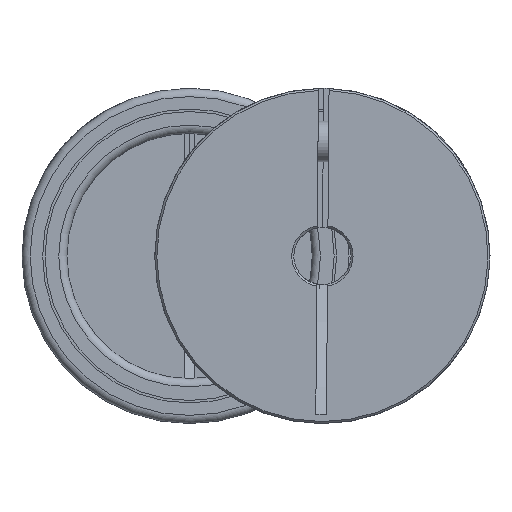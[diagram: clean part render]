
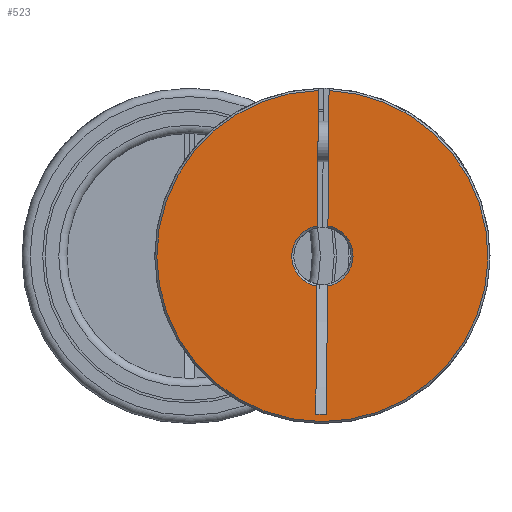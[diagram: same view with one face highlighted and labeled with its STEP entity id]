
A CAD part, left-side view. The second image highlights one B-rep face of the part: STEP entity #523.
In plain terms, the highlighted planar face has unit normal (-1, 0, 0).
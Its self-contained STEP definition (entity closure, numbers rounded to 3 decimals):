
#523 = ADVANCED_FACE( 'NONE', ( #794 ), #795, .F. );
#794 = FACE_OUTER_BOUND( '', #975, .T. );
#795 = PLANE( '', #976 );
#975 = EDGE_LOOP( '', ( #1234, #1235, #1236, #1237, #1238, #1239, #1240, #1241 ) );
#976 = AXIS2_PLACEMENT_3D( '', #1242, #1243, #1244 );
#1234 = ORIENTED_EDGE( '', *, *, #1616, .T. );
#1235 = ORIENTED_EDGE( '', *, *, #1618, .T. );
#1236 = ORIENTED_EDGE( '', *, *, #1619, .T. );
#1237 = ORIENTED_EDGE( '', *, *, #1624, .T. );
#1238 = ORIENTED_EDGE( '', *, *, #1625, .F. );
#1239 = ORIENTED_EDGE( '', *, *, #1597, .T. );
#1240 = ORIENTED_EDGE( '', *, *, #1626, .F. );
#1241 = ORIENTED_EDGE( '', *, *, #1603, .T. );
#1242 = CARTESIAN_POINT( '', ( 0., 7., 0. ) );
#1243 = DIRECTION( '', ( 1., 0., 0. ) );
#1244 = DIRECTION( '', ( 0., 1., 0. ) );
#1597 = EDGE_CURVE( 'NONE', #1799, #1796, #1800, .T. );
#1603 = EDGE_CURVE( 'NONE', #1805, #1809, #1811, .T. );
#1616 = EDGE_CURVE( 'NONE', #1809, #1832, #1834, .T. );
#1618 = EDGE_CURVE( 'NONE', #1832, #1835, #1837, .T. );
#1619 = EDGE_CURVE( 'NONE', #1835, #1838, #1839, .T. );
#1624 = EDGE_CURVE( 'NONE', #1838, #1847, #1848, .F. );
#1625 = EDGE_CURVE( 'NONE', #1799, #1847, #1849, .F. );
#1626 = EDGE_CURVE( 'NONE', #1805, #1796, #1850, .F. );
#1796 = VERTEX_POINT( 'NONE', #1948 );
#1799 = VERTEX_POINT( 'NONE', #1954 );
#1800 = CIRCLE( '', #1955, 7.5 );
#1805 = VERTEX_POINT( 'NONE', #1963 );
#1809 = VERTEX_POINT( 'NONE', #1970 );
#1811 = LINE( '', #1972, #1973 );
#1832 = VERTEX_POINT( 'NONE', #2000 );
#1834 = LINE( '', #2005, #2006 );
#1835 = VERTEX_POINT( 'NONE', #2007 );
#1837 = CIRCLE( '', #2012, 7.5 );
#1838 = VERTEX_POINT( 'NONE', #2013 );
#1839 = LINE( '', #2014, #2015 );
#1847 = VERTEX_POINT( 'NONE', #2028 );
#1848 = CIRCLE( '', #2029, 40.5 );
#1849 = LINE( '', #2030, #2031 );
#1850 = LINE( '', #2032, #2033 );
#1948 = CARTESIAN_POINT( '', ( 0., -1.3, -7.386 ) );
#1954 = CARTESIAN_POINT( '', ( 0., -1.3, 7.386 ) );
#1955 = AXIS2_PLACEMENT_3D( '', #2322, #2323, #2324 );
#1963 = CARTESIAN_POINT( '', ( 0., -1.3, -38.697 ) );
#1970 = CARTESIAN_POINT( '', ( 0., 1.3, -38.697 ) );
#1972 = CARTESIAN_POINT( '', ( 0., -1.3, -38.697 ) );
#1973 = VECTOR( '', #2334, 1000. );
#2000 = CARTESIAN_POINT( '', ( 0., 1.3, -7.386 ) );
#2005 = CARTESIAN_POINT( '', ( 0., 1.3, 0. ) );
#2006 = VECTOR( '', #2356, 1000. );
#2007 = CARTESIAN_POINT( '', ( 0., 1.3, 7.386 ) );
#2012 = AXIS2_PLACEMENT_3D( '', #2357, #2358, #2359 );
#2013 = CARTESIAN_POINT( '', ( 0., 1.3, 40.479 ) );
#2014 = CARTESIAN_POINT( '', ( 0., 1.3, 0. ) );
#2015 = VECTOR( '', #2360, 1000. );
#2028 = CARTESIAN_POINT( '', ( 0., -1.3, 40.479 ) );
#2029 = AXIS2_PLACEMENT_3D( '', #2366, #2367, #2368 );
#2030 = CARTESIAN_POINT( '', ( 0., -1.3, 11. ) );
#2031 = VECTOR( '', #2369, 1000. );
#2032 = CARTESIAN_POINT( '', ( 0., -1.3, 11. ) );
#2033 = VECTOR( '', #2370, 1000. );
#2322 = CARTESIAN_POINT( '', ( 0., 0., 0. ) );
#2323 = DIRECTION( '', ( 1., 0., 0. ) );
#2324 = DIRECTION( '', ( 0., 0., -1. ) );
#2334 = DIRECTION( '', ( 0., 1., 0. ) );
#2356 = DIRECTION( '', ( 0., 0., 1. ) );
#2357 = CARTESIAN_POINT( '', ( 0., 0., 0. ) );
#2358 = DIRECTION( '', ( 1., 0., 0. ) );
#2359 = DIRECTION( '', ( 0., 0., -1. ) );
#2360 = DIRECTION( '', ( 0., 0., 1. ) );
#2366 = CARTESIAN_POINT( '', ( 0., 0., 0. ) );
#2367 = DIRECTION( '', ( 1., 0., 0. ) );
#2368 = DIRECTION( '', ( 0., 0., -1. ) );
#2369 = DIRECTION( '', ( 0., 0., -1. ) );
#2370 = DIRECTION( '', ( 0., 0., -1. ) );
